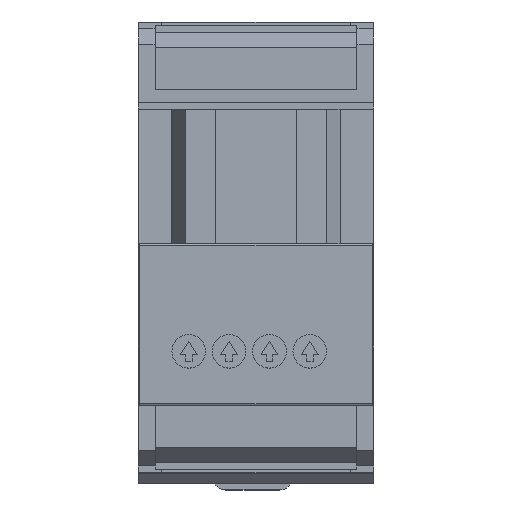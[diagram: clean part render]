
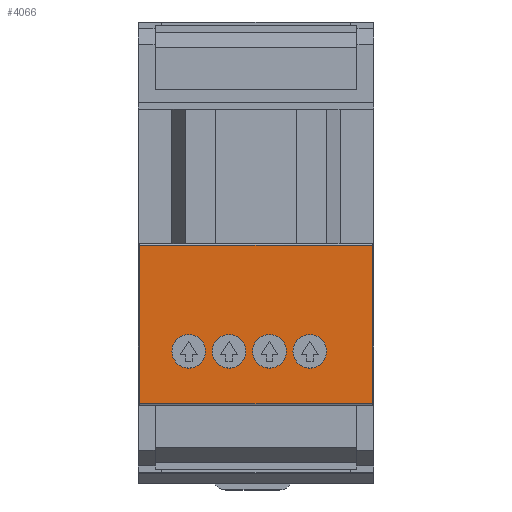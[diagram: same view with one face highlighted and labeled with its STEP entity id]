
A CAD part, top view. The second image highlights one B-rep face of the part: STEP entity #4066.
In plain terms, the highlighted planar face has unit normal (0, 0, 1).
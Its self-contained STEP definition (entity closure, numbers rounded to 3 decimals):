
#855 = CYLINDRICAL_SURFACE('',#856,0.2);
#856 = AXIS2_PLACEMENT_3D('',#857,#858,#859);
#857 = CARTESIAN_POINT('',(0.2,34.,64.8));
#858 = DIRECTION('',(0.,-1.,0.));
#859 = DIRECTION('',(-1.,-0.,0.));
#1048 = CYLINDRICAL_SURFACE('',#1049,0.2);
#1049 = AXIS2_PLACEMENT_3D('',#1050,#1051,#1052);
#1050 = CARTESIAN_POINT('',(0.,10.2,64.8));
#1051 = DIRECTION('',(1.,0.,0.));
#1052 = DIRECTION('',(0.,-1.,0.));
#1064 = VERTEX_POINT('',#1065);
#1065 = CARTESIAN_POINT('',(0.2,33.8,65.));
#1086 = CYLINDRICAL_SURFACE('',#1087,0.2);
#1087 = AXIS2_PLACEMENT_3D('',#1088,#1089,#1090);
#1088 = CARTESIAN_POINT('',(35.,33.8,64.8));
#1089 = DIRECTION('',(-1.,0.,0.));
#1090 = DIRECTION('',(0.,0.,1.));
#1104 = EDGE_CURVE('',#1064,#1105,#1107,.T.);
#1105 = VERTEX_POINT('',#1106);
#1106 = CARTESIAN_POINT('',(0.2,10.2,65.));
#1107 = SURFACE_CURVE('',#1108,(#1112,#1119),.PCURVE_S1.);
#1108 = LINE('',#1109,#1110);
#1109 = CARTESIAN_POINT('',(0.2,34.,65.));
#1110 = VECTOR('',#1111,1.);
#1111 = DIRECTION('',(0.,-1.,0.));
#1112 = PCURVE('',#855,#1113);
#1113 = DEFINITIONAL_REPRESENTATION('',(#1114),#1118);
#1114 = LINE('',#1115,#1116);
#1115 = CARTESIAN_POINT('',(-1.571,0.));
#1116 = VECTOR('',#1117,1.);
#1117 = DIRECTION('',(-0.,1.));
#1118 = ( GEOMETRIC_REPRESENTATION_CONTEXT(2) 
PARAMETRIC_REPRESENTATION_CONTEXT() REPRESENTATION_CONTEXT('2D SPACE',''
  ) );
#1119 = PCURVE('',#1120,#1125);
#1120 = PLANE('',#1121);
#1121 = AXIS2_PLACEMENT_3D('',#1122,#1123,#1124);
#1122 = CARTESIAN_POINT('',(0.,55.,65.));
#1123 = DIRECTION('',(0.,0.,-1.));
#1124 = DIRECTION('',(0.,-1.,0.));
#1125 = DEFINITIONAL_REPRESENTATION('',(#1126),#1130);
#1126 = LINE('',#1127,#1128);
#1127 = CARTESIAN_POINT('',(21.,-0.2));
#1128 = VECTOR('',#1129,1.);
#1129 = DIRECTION('',(1.,0.));
#1130 = ( GEOMETRIC_REPRESENTATION_CONTEXT(2) 
PARAMETRIC_REPRESENTATION_CONTEXT() REPRESENTATION_CONTEXT('2D SPACE',''
  ) );
#3385 = EDGE_CURVE('',#1105,#3386,#3388,.T.);
#3386 = VERTEX_POINT('',#3387);
#3387 = CARTESIAN_POINT('',(34.8,10.2,65.));
#3388 = SURFACE_CURVE('',#3389,(#3393,#3400),.PCURVE_S1.);
#3389 = LINE('',#3390,#3391);
#3390 = CARTESIAN_POINT('',(0.,10.2,65.));
#3391 = VECTOR('',#3392,1.);
#3392 = DIRECTION('',(1.,0.,0.));
#3393 = PCURVE('',#1048,#3394);
#3394 = DEFINITIONAL_REPRESENTATION('',(#3395),#3399);
#3395 = LINE('',#3396,#3397);
#3396 = CARTESIAN_POINT('',(-1.571,0.));
#3397 = VECTOR('',#3398,1.);
#3398 = DIRECTION('',(-0.,1.));
#3399 = ( GEOMETRIC_REPRESENTATION_CONTEXT(2) 
PARAMETRIC_REPRESENTATION_CONTEXT() REPRESENTATION_CONTEXT('2D SPACE',''
  ) );
#3400 = PCURVE('',#1120,#3401);
#3401 = DEFINITIONAL_REPRESENTATION('',(#3402),#3406);
#3402 = LINE('',#3403,#3404);
#3403 = CARTESIAN_POINT('',(44.8,0.));
#3404 = VECTOR('',#3405,1.);
#3405 = DIRECTION('',(0.,-1.));
#3406 = ( GEOMETRIC_REPRESENTATION_CONTEXT(2) 
PARAMETRIC_REPRESENTATION_CONTEXT() REPRESENTATION_CONTEXT('2D SPACE',''
  ) );
#3429 = CYLINDRICAL_SURFACE('',#3430,0.2);
#3430 = AXIS2_PLACEMENT_3D('',#3431,#3432,#3433);
#3431 = CARTESIAN_POINT('',(34.8,34.,64.8));
#3432 = DIRECTION('',(0.,-1.,0.));
#3433 = DIRECTION('',(0.,0.,1.));
#4009 = VERTEX_POINT('',#4010);
#4010 = CARTESIAN_POINT('',(34.8,33.8,65.));
#4046 = EDGE_CURVE('',#4009,#1064,#4047,.T.);
#4047 = SURFACE_CURVE('',#4048,(#4052,#4059),.PCURVE_S1.);
#4048 = LINE('',#4049,#4050);
#4049 = CARTESIAN_POINT('',(35.,33.8,65.));
#4050 = VECTOR('',#4051,1.);
#4051 = DIRECTION('',(-1.,0.,0.));
#4052 = PCURVE('',#1086,#4053);
#4053 = DEFINITIONAL_REPRESENTATION('',(#4054),#4058);
#4054 = LINE('',#4055,#4056);
#4055 = CARTESIAN_POINT('',(0.,0.));
#4056 = VECTOR('',#4057,1.);
#4057 = DIRECTION('',(0.,1.));
#4058 = ( GEOMETRIC_REPRESENTATION_CONTEXT(2) 
PARAMETRIC_REPRESENTATION_CONTEXT() REPRESENTATION_CONTEXT('2D SPACE',''
  ) );
#4059 = PCURVE('',#1120,#4060);
#4060 = DEFINITIONAL_REPRESENTATION('',(#4061),#4065);
#4061 = LINE('',#4062,#4063);
#4062 = CARTESIAN_POINT('',(21.2,-35.));
#4063 = VECTOR('',#4064,1.);
#4064 = DIRECTION('',(0.,1.));
#4065 = ( GEOMETRIC_REPRESENTATION_CONTEXT(2) 
PARAMETRIC_REPRESENTATION_CONTEXT() REPRESENTATION_CONTEXT('2D SPACE',''
  ) );
#4066 = ADVANCED_FACE('',(#4067),#1120,.F.);
#4067 = FACE_BOUND('',#4068,.F.);
#4068 = EDGE_LOOP('',(#4069,#4070,#4071,#4092));
#4069 = ORIENTED_EDGE('',*,*,#1104,.F.);
#4070 = ORIENTED_EDGE('',*,*,#4046,.F.);
#4071 = ORIENTED_EDGE('',*,*,#4072,.T.);
#4072 = EDGE_CURVE('',#4009,#3386,#4073,.T.);
#4073 = SURFACE_CURVE('',#4074,(#4078,#4085),.PCURVE_S1.);
#4074 = LINE('',#4075,#4076);
#4075 = CARTESIAN_POINT('',(34.8,34.,65.));
#4076 = VECTOR('',#4077,1.);
#4077 = DIRECTION('',(0.,-1.,0.));
#4078 = PCURVE('',#1120,#4079);
#4079 = DEFINITIONAL_REPRESENTATION('',(#4080),#4084);
#4080 = LINE('',#4081,#4082);
#4081 = CARTESIAN_POINT('',(21.,-34.8));
#4082 = VECTOR('',#4083,1.);
#4083 = DIRECTION('',(1.,0.));
#4084 = ( GEOMETRIC_REPRESENTATION_CONTEXT(2) 
PARAMETRIC_REPRESENTATION_CONTEXT() REPRESENTATION_CONTEXT('2D SPACE',''
  ) );
#4085 = PCURVE('',#3429,#4086);
#4086 = DEFINITIONAL_REPRESENTATION('',(#4087),#4091);
#4087 = LINE('',#4088,#4089);
#4088 = CARTESIAN_POINT('',(-0.,0.));
#4089 = VECTOR('',#4090,1.);
#4090 = DIRECTION('',(-0.,1.));
#4091 = ( GEOMETRIC_REPRESENTATION_CONTEXT(2) 
PARAMETRIC_REPRESENTATION_CONTEXT() REPRESENTATION_CONTEXT('2D SPACE',''
  ) );
#4092 = ORIENTED_EDGE('',*,*,#3385,.F.);
